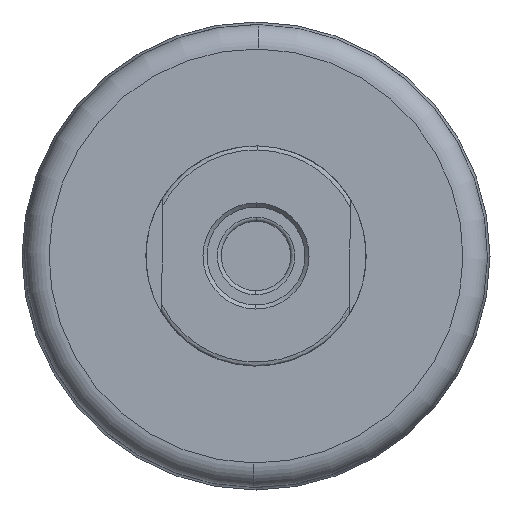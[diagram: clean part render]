
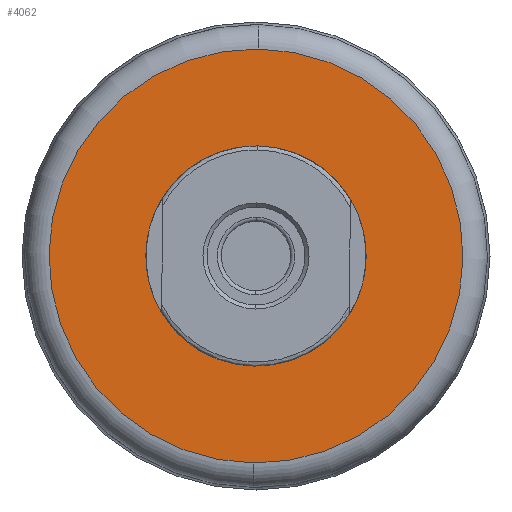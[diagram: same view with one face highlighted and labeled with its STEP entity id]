
A CAD part, front view. The second image highlights one B-rep face of the part: STEP entity #4062.
In plain terms, the highlighted planar face has unit normal (0, -1, 0).
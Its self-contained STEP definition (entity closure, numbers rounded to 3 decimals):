
#453 = DIRECTION ( 'NONE',  ( 0., 1., 0. ) ) ;
#484 = CARTESIAN_POINT ( 'NONE',  ( -26.998, -133.428, 0.309 ) ) ;
#608 = ORIENTED_EDGE ( 'NONE', *, *, #4610, .T. ) ;
#697 = CIRCLE ( 'NONE', #2196, 50.75 ) ;
#733 = EDGE_LOOP ( 'NONE', ( #608, #3829 ) ) ;
#991 = FACE_OUTER_BOUND ( 'NONE', #3581, .T. ) ;
#1057 = FACE_BOUND ( 'NONE', #733, .T. ) ;
#1109 = VERTEX_POINT ( 'NONE', #5105 ) ;
#1423 = ORIENTED_EDGE ( 'NONE', *, *, #6534, .F. ) ;
#1557 = VERTEX_POINT ( 'NONE', #3979 ) ;
#1576 = EDGE_CURVE ( 'NONE', #1109, #5231, #697, .T. ) ;
#1652 = DIRECTION ( 'NONE',  ( 0.011, 0., 1. ) ) ;
#1985 = DIRECTION ( 'NONE',  ( 0., 1., 0. ) ) ;
#2091 = CARTESIAN_POINT ( 'NONE',  ( -0.582, -133.428, -50.747 ) ) ;
#2113 = CARTESIAN_POINT ( 'NONE',  ( 0., -133.428, 0. ) ) ;
#2148 = DIRECTION ( 'NONE',  ( 0.011, 0., 1. ) ) ;
#2196 = AXIS2_PLACEMENT_3D ( 'NONE', #6531, #453, #5996 ) ;
#2350 = CIRCLE ( 'NONE', #3219, 27. ) ;
#2414 = DIRECTION ( 'NONE',  ( 0., 1., 0. ) ) ;
#2447 = CARTESIAN_POINT ( 'NONE',  ( 0., -133.428, 0. ) ) ;
#2468 = CIRCLE ( 'NONE', #5028, 50.75 ) ;
#2604 = VERTEX_POINT ( 'NONE', #6523 ) ;
#3154 = DIRECTION ( 'NONE',  ( 0., -1., 0. ) ) ;
#3180 = PLANE ( 'NONE',  #3946 ) ;
#3205 = CARTESIAN_POINT ( 'NONE',  ( 0., -133.428, 0. ) ) ;
#3219 = AXIS2_PLACEMENT_3D ( 'NONE', #2447, #2414, #5053 ) ;
#3581 = EDGE_LOOP ( 'NONE', ( #5283, #1423 ) ) ;
#3829 = ORIENTED_EDGE ( 'NONE', *, *, #5498, .T. ) ;
#3946 = AXIS2_PLACEMENT_3D ( 'NONE', #484, #3154, #4673 ) ;
#3979 = CARTESIAN_POINT ( 'NONE',  ( 0.309, -133.428, 26.998 ) ) ;
#4062 = ADVANCED_FACE ( 'NONE', ( #1057, #991 ), #3180, .T. ) ;
#4078 = AXIS2_PLACEMENT_3D ( 'NONE', #2113, #1985, #2148 ) ;
#4094 = DIRECTION ( 'NONE',  ( 0., 1., 0. ) ) ;
#4610 = EDGE_CURVE ( 'NONE', #1557, #2604, #2350, .T. ) ;
#4673 = DIRECTION ( 'NONE',  ( 0., 0., -1. ) ) ;
#5028 = AXIS2_PLACEMENT_3D ( 'NONE', #3205, #4094, #1652 ) ;
#5053 = DIRECTION ( 'NONE',  ( 0.011, 0., 1. ) ) ;
#5105 = CARTESIAN_POINT ( 'NONE',  ( 0.582, -133.428, 50.747 ) ) ;
#5231 = VERTEX_POINT ( 'NONE', #2091 ) ;
#5283 = ORIENTED_EDGE ( 'NONE', *, *, #1576, .F. ) ;
#5498 = EDGE_CURVE ( 'NONE', #2604, #1557, #6513, .T. ) ;
#5996 = DIRECTION ( 'NONE',  ( 0.011, 0., 1. ) ) ;
#6513 = CIRCLE ( 'NONE', #4078, 27. ) ;
#6523 = CARTESIAN_POINT ( 'NONE',  ( -0.309, -133.428, -26.998 ) ) ;
#6531 = CARTESIAN_POINT ( 'NONE',  ( 0., -133.428, 0. ) ) ;
#6534 = EDGE_CURVE ( 'NONE', #5231, #1109, #2468, .T. ) ;
